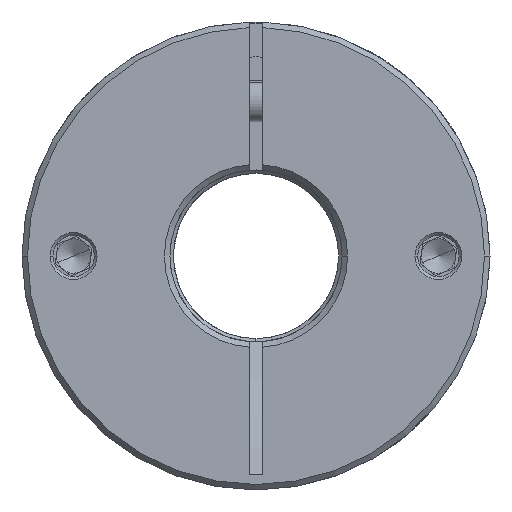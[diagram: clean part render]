
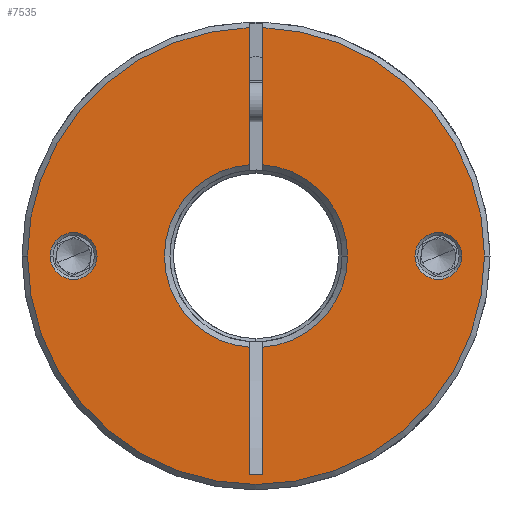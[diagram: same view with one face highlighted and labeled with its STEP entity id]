
A CAD part, front view. The second image highlights one B-rep face of the part: STEP entity #7535.
In plain terms, the highlighted planar face has unit normal (0, -1, 0).
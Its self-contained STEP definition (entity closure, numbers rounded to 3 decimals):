
#37 = EDGE_LOOP ( 'NONE', ( #6107, #2053 ) ) ;
#594 = DIRECTION ( 'NONE',  ( 0., -1., 0. ) ) ;
#749 = AXIS2_PLACEMENT_3D ( 'NONE', #7032, #4961, #1858 ) ;
#783 = ORIENTED_EDGE ( 'NONE', *, *, #11592, .T. ) ;
#955 = DIRECTION ( 'NONE',  ( 0., -1., 0. ) ) ;
#1087 = CIRCLE ( 'NONE', #11518, 13.3 ) ;
#1177 = VERTEX_POINT ( 'NONE', #5542 ) ;
#1261 = CIRCLE ( 'NONE', #3958, 3.4 ) ;
#1267 = CARTESIAN_POINT ( 'NONE',  ( 30.465, -47.045, 68. ) ) ;
#1328 = VERTEX_POINT ( 'NONE', #7907 ) ;
#1370 = DIRECTION ( 'NONE',  ( 1., 0., 0. ) ) ;
#1380 = DIRECTION ( 'NONE',  ( 0., -1., 0. ) ) ;
#1381 = CARTESIAN_POINT ( 'NONE',  ( 23.765, -47.045, 68. ) ) ;
#1386 = DIRECTION ( 'NONE',  ( 1., 0., 0. ) ) ;
#1389 = EDGE_CURVE ( 'NONE', #1328, #7875, #9176, .T. ) ;
#1630 = CARTESIAN_POINT ( 'NONE',  ( 27.165, -47.045, 68. ) ) ;
#1794 = ORIENTED_EDGE ( 'NONE', *, *, #6858, .T. ) ;
#1799 = EDGE_CURVE ( 'NONE', #8100, #1177, #13013, .T. ) ;
#1858 = DIRECTION ( 'NONE',  ( 1., 0., 0. ) ) ;
#1895 = CIRCLE ( 'NONE', #7409, 13.3 ) ;
#2053 = ORIENTED_EDGE ( 'NONE', *, *, #9684, .T. ) ;
#2134 = ORIENTED_EDGE ( 'NONE', *, *, #12270, .T. ) ;
#2297 = AXIS2_PLACEMENT_3D ( 'NONE', #9976, #12110, #12198 ) ;
#2485 = EDGE_CURVE ( 'NONE', #11445, #4467, #12890, .T. ) ;
#2505 = AXIS2_PLACEMENT_3D ( 'NONE', #10697, #12699, #1386 ) ;
#2534 = DIRECTION ( 'NONE',  ( 1., 0., 0. ) ) ;
#2608 = VECTOR ( 'NONE', #3202, 1000. ) ;
#2706 = DIRECTION ( 'NONE',  ( 0., 1., 0. ) ) ;
#2840 = FACE_BOUND ( 'NONE', #12250, .T. ) ;
#3087 = VERTEX_POINT ( 'NONE', #6630 ) ;
#3202 = DIRECTION ( 'NONE',  ( 0., 0., -1. ) ) ;
#3302 = VECTOR ( 'NONE', #9862, 1000. ) ;
#3353 = LINE ( 'NONE', #8867, #3507 ) ;
#3427 = VECTOR ( 'NONE', #5110, 1000. ) ;
#3452 = AXIS2_PLACEMENT_3D ( 'NONE', #1381, #8571, #9750 ) ;
#3465 = AXIS2_PLACEMENT_3D ( 'NONE', #7665, #594, #5769 ) ;
#3507 = VECTOR ( 'NONE', #11091, 1000. ) ;
#3538 = ORIENTED_EDGE ( 'NONE', *, *, #8142, .T. ) ;
#3539 = PLANE ( 'NONE',  #7021 ) ;
#3569 = CARTESIAN_POINT ( 'NONE',  ( -2.735, -47.045, 68. ) ) ;
#3779 = CIRCLE ( 'NONE', #8532, 3.4 ) ;
#3800 = VERTEX_POINT ( 'NONE', #8060 ) ;
#3958 = AXIS2_PLACEMENT_3D ( 'NONE', #10586, #8559, #1370 ) ;
#4452 = CARTESIAN_POINT ( 'NONE',  ( -2.735, -47.045, 68. ) ) ;
#4467 = VERTEX_POINT ( 'NONE', #6300 ) ;
#4542 = CARTESIAN_POINT ( 'NONE',  ( 10.565, -47.045, 68. ) ) ;
#4545 = ORIENTED_EDGE ( 'NONE', *, *, #6225, .T. ) ;
#4547 = ORIENTED_EDGE ( 'NONE', *, *, #7553, .F. ) ;
#4737 = CARTESIAN_POINT ( 'NONE',  ( -1.735, -47.045, 101.185 ) ) ;
#4764 = CIRCLE ( 'NONE', #11180, 33.2 ) ;
#4771 = CARTESIAN_POINT ( 'NONE',  ( -2.735, -47.045, 68. ) ) ;
#4902 = LINE ( 'NONE', #9580, #5219 ) ;
#4922 = VERTEX_POINT ( 'NONE', #1267 ) ;
#4961 = DIRECTION ( 'NONE',  ( 0., 1., 0. ) ) ;
#5069 = VERTEX_POINT ( 'NONE', #4542 ) ;
#5110 = DIRECTION ( 'NONE',  ( 0., 0., -1. ) ) ;
#5219 = VECTOR ( 'NONE', #6506, 1000. ) ;
#5542 = CARTESIAN_POINT ( 'NONE',  ( 20.365, -47.045, 68. ) ) ;
#5769 = DIRECTION ( 'NONE',  ( 1., 0., 0. ) ) ;
#5914 = DIRECTION ( 'NONE',  ( 1., 0., 0. ) ) ;
#6107 = ORIENTED_EDGE ( 'NONE', *, *, #1799, .T. ) ;
#6225 = EDGE_CURVE ( 'NONE', #5069, #11445, #10574, .T. ) ;
#6300 = CARTESIAN_POINT ( 'NONE',  ( -1.735, -47.045, 36.279 ) ) ;
#6349 = CIRCLE ( 'NONE', #3452, 3.4 ) ;
#6353 = CIRCLE ( 'NONE', #2505, 33.2 ) ;
#6360 = CARTESIAN_POINT ( 'NONE',  ( -1.735, -47.045, 68. ) ) ;
#6506 = DIRECTION ( 'NONE',  ( -1., 0., 0. ) ) ;
#6630 = CARTESIAN_POINT ( 'NONE',  ( -1.735, -47.045, 81.262 ) ) ;
#6782 = DIRECTION ( 'NONE',  ( 0., 1., 0. ) ) ;
#6858 = EDGE_CURVE ( 'NONE', #9367, #12921, #1261, .T. ) ;
#6893 = CIRCLE ( 'NONE', #3465, 33.2 ) ;
#6909 = EDGE_CURVE ( 'NONE', #7425, #3800, #6893, .T. ) ;
#6913 = CARTESIAN_POINT ( 'NONE',  ( -29.235, -47.045, 68. ) ) ;
#6958 = DIRECTION ( 'NONE',  ( 1., 0., 0. ) ) ;
#6990 = EDGE_CURVE ( 'NONE', #1328, #8775, #1895, .T. ) ;
#7021 = AXIS2_PLACEMENT_3D ( 'NONE', #4452, #1380, #8689 ) ;
#7032 = CARTESIAN_POINT ( 'NONE',  ( 23.765, -47.045, 68. ) ) ;
#7082 = EDGE_CURVE ( 'NONE', #3087, #5069, #1087, .T. ) ;
#7293 = ORIENTED_EDGE ( 'NONE', *, *, #2485, .T. ) ;
#7409 = AXIS2_PLACEMENT_3D ( 'NONE', #3569, #7625, #2534 ) ;
#7425 = VERTEX_POINT ( 'NONE', #12479 ) ;
#7535 = ADVANCED_FACE ( 'NONE', ( #8799, #2840, #13296 ), #3539, .T. ) ;
#7553 = EDGE_CURVE ( 'NONE', #7425, #8775, #3353, .T. ) ;
#7625 = DIRECTION ( 'NONE',  ( 0., 1., 0. ) ) ;
#7665 = CARTESIAN_POINT ( 'NONE',  ( -2.735, -47.045, 68. ) ) ;
#7875 = VERTEX_POINT ( 'NONE', #11690 ) ;
#7907 = CARTESIAN_POINT ( 'NONE',  ( -3.735, -47.045, 54.738 ) ) ;
#8060 = CARTESIAN_POINT ( 'NONE',  ( -35.935, -47.045, 68. ) ) ;
#8100 = VERTEX_POINT ( 'NONE', #1630 ) ;
#8142 = EDGE_CURVE ( 'NONE', #4922, #9821, #4764, .T. ) ;
#8484 = CARTESIAN_POINT ( 'NONE',  ( -32.635, -47.045, 68. ) ) ;
#8532 = AXIS2_PLACEMENT_3D ( 'NONE', #6913, #6782, #6958 ) ;
#8559 = DIRECTION ( 'NONE',  ( 0., 1., 0. ) ) ;
#8571 = DIRECTION ( 'NONE',  ( 0., 1., 0. ) ) ;
#8689 = DIRECTION ( 'NONE',  ( 1., 0., 0. ) ) ;
#8775 = VERTEX_POINT ( 'NONE', #13232 ) ;
#8799 = FACE_BOUND ( 'NONE', #37, .T. ) ;
#8867 = CARTESIAN_POINT ( 'NONE',  ( -3.735, -47.045, 68. ) ) ;
#8969 = ORIENTED_EDGE ( 'NONE', *, *, #6909, .T. ) ;
#9176 = LINE ( 'NONE', #11241, #3427 ) ;
#9293 = ORIENTED_EDGE ( 'NONE', *, *, #1389, .F. ) ;
#9347 = ORIENTED_EDGE ( 'NONE', *, *, #9487, .T. ) ;
#9367 = VERTEX_POINT ( 'NONE', #12720 ) ;
#9487 = EDGE_CURVE ( 'NONE', #9821, #3087, #12604, .T. ) ;
#9580 = CARTESIAN_POINT ( 'NONE',  ( -3.735, -47.045, 36.279 ) ) ;
#9684 = EDGE_CURVE ( 'NONE', #1177, #8100, #6349, .T. ) ;
#9750 = DIRECTION ( 'NONE',  ( 1., 0., 0. ) ) ;
#9821 = VERTEX_POINT ( 'NONE', #4737 ) ;
#9862 = DIRECTION ( 'NONE',  ( 0., 0., -1. ) ) ;
#9928 = ORIENTED_EDGE ( 'NONE', *, *, #12617, .T. ) ;
#9976 = CARTESIAN_POINT ( 'NONE',  ( -2.735, -47.045, 68. ) ) ;
#10089 = CARTESIAN_POINT ( 'NONE',  ( -1.735, -47.045, 54.738 ) ) ;
#10159 = ORIENTED_EDGE ( 'NONE', *, *, #7082, .T. ) ;
#10574 = CIRCLE ( 'NONE', #2297, 13.3 ) ;
#10586 = CARTESIAN_POINT ( 'NONE',  ( -29.235, -47.045, 68. ) ) ;
#10697 = CARTESIAN_POINT ( 'NONE',  ( -2.735, -47.045, 68. ) ) ;
#11091 = DIRECTION ( 'NONE',  ( 0., 0., -1. ) ) ;
#11180 = AXIS2_PLACEMENT_3D ( 'NONE', #11215, #955, #5914 ) ;
#11215 = CARTESIAN_POINT ( 'NONE',  ( -2.735, -47.045, 68. ) ) ;
#11241 = CARTESIAN_POINT ( 'NONE',  ( -3.735, -47.045, 68. ) ) ;
#11445 = VERTEX_POINT ( 'NONE', #10089 ) ;
#11518 = AXIS2_PLACEMENT_3D ( 'NONE', #4771, #2706, #13032 ) ;
#11592 = EDGE_CURVE ( 'NONE', #4467, #7875, #4902, .T. ) ;
#11690 = CARTESIAN_POINT ( 'NONE',  ( -3.735, -47.045, 36.279 ) ) ;
#11810 = CARTESIAN_POINT ( 'NONE',  ( -1.735, -47.045, 68. ) ) ;
#12110 = DIRECTION ( 'NONE',  ( 0., 1., 0. ) ) ;
#12198 = DIRECTION ( 'NONE',  ( 1., 0., 0. ) ) ;
#12250 = EDGE_LOOP ( 'NONE', ( #1794, #2134 ) ) ;
#12270 = EDGE_CURVE ( 'NONE', #12921, #9367, #3779, .T. ) ;
#12402 = EDGE_LOOP ( 'NONE', ( #4547, #8969, #9928, #3538, #9347, #10159, #4545, #7293, #783, #9293, #13064 ) ) ;
#12479 = CARTESIAN_POINT ( 'NONE',  ( -3.735, -47.045, 101.185 ) ) ;
#12604 = LINE ( 'NONE', #11810, #3302 ) ;
#12617 = EDGE_CURVE ( 'NONE', #3800, #4922, #6353, .T. ) ;
#12699 = DIRECTION ( 'NONE',  ( 0., -1., 0. ) ) ;
#12720 = CARTESIAN_POINT ( 'NONE',  ( -25.835, -47.045, 68. ) ) ;
#12890 = LINE ( 'NONE', #6360, #2608 ) ;
#12921 = VERTEX_POINT ( 'NONE', #8484 ) ;
#13013 = CIRCLE ( 'NONE', #749, 3.4 ) ;
#13032 = DIRECTION ( 'NONE',  ( 1., 0., 0. ) ) ;
#13064 = ORIENTED_EDGE ( 'NONE', *, *, #6990, .T. ) ;
#13232 = CARTESIAN_POINT ( 'NONE',  ( -3.735, -47.045, 81.262 ) ) ;
#13296 = FACE_OUTER_BOUND ( 'NONE', #12402, .T. ) ;
